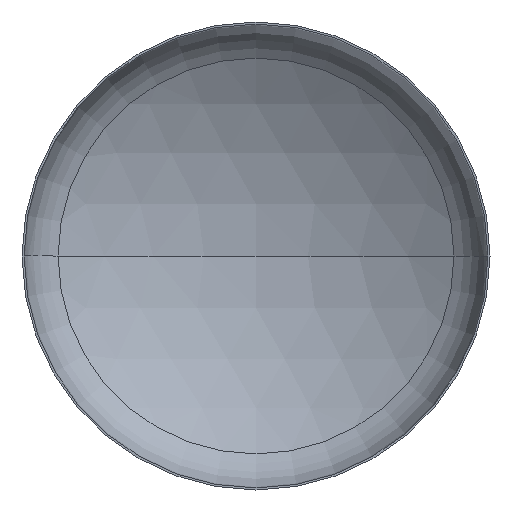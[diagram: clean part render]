
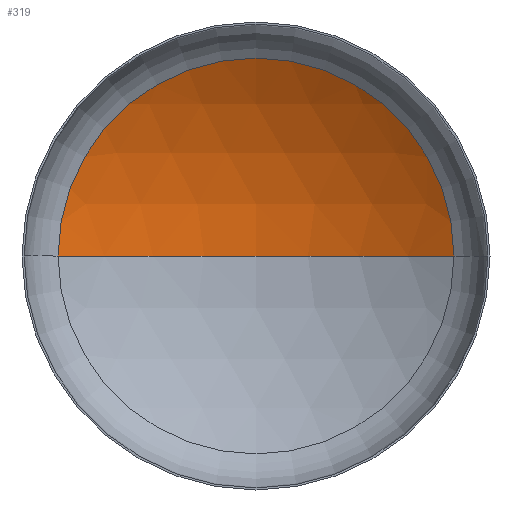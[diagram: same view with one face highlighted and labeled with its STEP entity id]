
A CAD part, front view. The second image highlights one B-rep face of the part: STEP entity #319.
In plain terms, the highlighted spherical face has radius 5600 mm.
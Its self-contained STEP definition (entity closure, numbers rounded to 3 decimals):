
#28 = AXIS2_PLACEMENT_3D ( 'NONE', #270, #271, #276 ) ;
#43 = AXIS2_PLACEMENT_3D ( 'NONE', #191, #190, #200 ) ;
#51 = AXIS2_PLACEMENT_3D ( 'NONE', #311, #172, #167 ) ;
#52 = AXIS2_PLACEMENT_3D ( 'NONE', #334, #330, #333 ) ;
#95 = VERTEX_POINT ( 'NONE', #327 ) ;
#102 = EDGE_CURVE ( 'NONE', #139, #212, #367, .T. ) ;
#104 = EDGE_CURVE ( 'NONE', #95, #139, #307, .T. ) ;
#106 = EDGE_CURVE ( 'NONE', #95, #212, #246, .T. ) ;
#111 = ORIENTED_EDGE ( 'NONE', *, *, #102, .T. ) ;
#121 = EDGE_LOOP ( 'NONE', ( #176, #285, #111 ) ) ;
#139 = VERTEX_POINT ( 'NONE', #403 ) ;
#167 = DIRECTION ( 'NONE',  ( -1., 0., 0. ) ) ;
#172 = DIRECTION ( 'NONE',  ( 0., 0., -1. ) ) ;
#176 = ORIENTED_EDGE ( 'NONE', *, *, #106, .F. ) ;
#190 = DIRECTION ( 'NONE',  ( 0., 0., 1. ) ) ;
#191 = CARTESIAN_POINT ( 'NONE',  ( 0., -3737.066, 0. ) ) ;
#200 = DIRECTION ( 'NONE',  ( 1., 0., 0. ) ) ;
#202 = CARTESIAN_POINT ( 'NONE',  ( -2959.823, 1016.821, 0. ) ) ;
#212 = VERTEX_POINT ( 'NONE', #202 ) ;
#246 = CIRCLE ( 'NONE', #43, 5600. ) ;
#270 = CARTESIAN_POINT ( 'NONE',  ( 0., -3737.066, 0. ) ) ;
#271 = DIRECTION ( 'NONE',  ( 0., 0., -1. ) ) ;
#276 = DIRECTION ( 'NONE',  ( -1., 0., 0. ) ) ;
#284 = SPHERICAL_SURFACE ( 'NONE', #28, 5600. ) ;
#285 = ORIENTED_EDGE ( 'NONE', *, *, #104, .T. ) ;
#307 = CIRCLE ( 'NONE', #51, 5600. ) ;
#311 = CARTESIAN_POINT ( 'NONE',  ( 0., -3737.066, 0. ) ) ;
#319 = ADVANCED_FACE ( 'NONE', ( #397 ), #284, .F. ) ;
#327 = CARTESIAN_POINT ( 'NONE',  ( 0., 1862.934, 0. ) ) ;
#330 = DIRECTION ( 'NONE',  ( 0., -1., 0. ) ) ;
#333 = DIRECTION ( 'NONE',  ( 1., 0., 0. ) ) ;
#334 = CARTESIAN_POINT ( 'NONE',  ( 0., 1016.821, 0. ) ) ;
#367 = CIRCLE ( 'NONE', #52, 2959.823 ) ;
#397 = FACE_OUTER_BOUND ( 'NONE', #121, .T. ) ;
#403 = CARTESIAN_POINT ( 'NONE',  ( 2959.823, 1016.821, 0. ) ) ;
